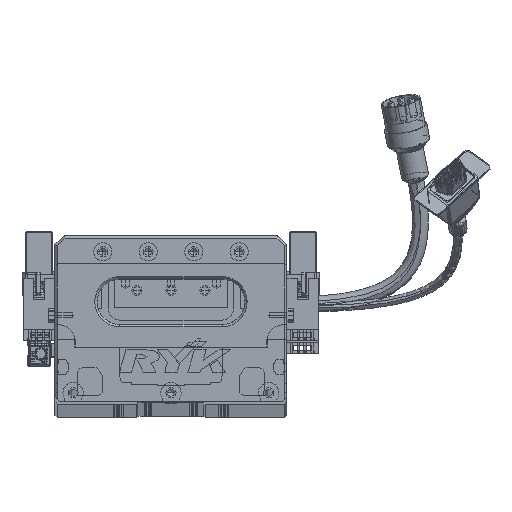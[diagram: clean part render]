
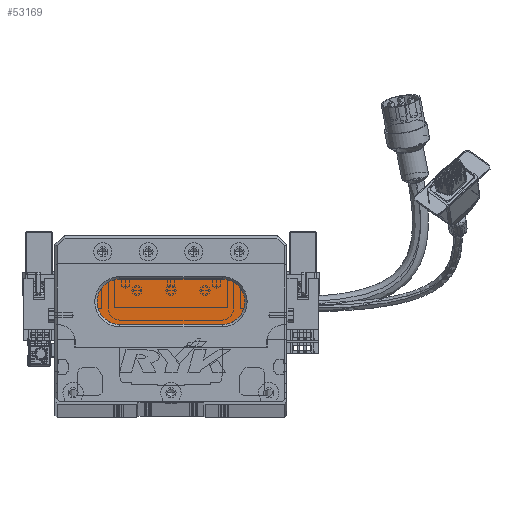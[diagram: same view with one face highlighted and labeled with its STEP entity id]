
A CAD part, top view. The second image highlights one B-rep face of the part: STEP entity #53169.
In plain terms, the highlighted planar face has unit normal (0, 0, 1) as drawn and (0, 0, -1) by its records, which use the part's own axes.
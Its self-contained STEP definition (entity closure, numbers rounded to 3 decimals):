
#3872 = DIRECTION ( 'NONE',  ( -1., 0., 0. ) ) ;
#8210 = CARTESIAN_POINT ( 'NONE',  ( 73.5, 34., 13. ) ) ;
#8734 = CARTESIAN_POINT ( 'NONE',  ( 73.5, 54., 13. ) ) ;
#12034 = CIRCLE ( 'NONE', #40817, 10. ) ;
#16904 = CIRCLE ( 'NONE', #22020, 10. ) ;
#17859 = DIRECTION ( 'NONE',  ( -1., 0., 0. ) ) ;
#19954 = VECTOR ( 'NONE', #86597, 1000. ) ;
#20382 = CARTESIAN_POINT ( 'NONE',  ( 28.5, 34., 13. ) ) ;
#21571 = CARTESIAN_POINT ( 'NONE',  ( 73.5, 54., 13. ) ) ;
#22020 = AXIS2_PLACEMENT_3D ( 'NONE', #46429, #40352, #17859 ) ;
#24805 = VERTEX_POINT ( 'NONE', #49963 ) ;
#28450 = EDGE_CURVE ( 'NONE', #76931, #47013, #12034, .T. ) ;
#31457 = FACE_OUTER_BOUND ( 'NONE', #54058, .T. ) ;
#36217 = CARTESIAN_POINT ( 'NONE',  ( 73.5, 44., 13. ) ) ;
#36836 = DIRECTION ( 'NONE',  ( 0., 0., -1. ) ) ;
#38061 = DIRECTION ( 'NONE',  ( -1., 0., 0. ) ) ;
#39636 = EDGE_CURVE ( 'NONE', #47013, #74011, #46811, .T. ) ;
#40352 = DIRECTION ( 'NONE',  ( 0., 0., -1. ) ) ;
#40817 = AXIS2_PLACEMENT_3D ( 'NONE', #67149, #73556, #38061 ) ;
#42160 = VERTEX_POINT ( 'NONE', #60572 ) ;
#42881 = ORIENTED_EDGE ( 'NONE', *, *, #58640, .T. ) ;
#46429 = CARTESIAN_POINT ( 'NONE',  ( 28.5, 44., 13. ) ) ;
#46774 = ORIENTED_EDGE ( 'NONE', *, *, #28450, .T. ) ;
#46811 = LINE ( 'NONE', #8210, #91415 ) ;
#47013 = VERTEX_POINT ( 'NONE', #94069 ) ;
#49963 = CARTESIAN_POINT ( 'NONE',  ( 18.5, 44., 13. ) ) ;
#51958 = AXIS2_PLACEMENT_3D ( 'NONE', #84350, #91972, #3872 ) ;
#53169 = ADVANCED_FACE ( 'NONE', ( #31457 ), #63695, .T. ) ;
#54058 = EDGE_LOOP ( 'NONE', ( #46774, #86217, #42881, #79621, #76504 ) ) ;
#58640 = EDGE_CURVE ( 'NONE', #74011, #24805, #62256, .T. ) ;
#59170 = DIRECTION ( 'NONE',  ( -1., 0., 0. ) ) ;
#60572 = CARTESIAN_POINT ( 'NONE',  ( 28.5, 54., 13. ) ) ;
#62256 = CIRCLE ( 'NONE', #51958, 10. ) ;
#63695 = PLANE ( 'NONE',  #83524 ) ;
#67149 = CARTESIAN_POINT ( 'NONE',  ( 73.5, 44., 13. ) ) ;
#73556 = DIRECTION ( 'NONE',  ( 0., 0., -1. ) ) ;
#74011 = VERTEX_POINT ( 'NONE', #20382 ) ;
#76504 = ORIENTED_EDGE ( 'NONE', *, *, #91984, .T. ) ;
#76931 = VERTEX_POINT ( 'NONE', #8734 ) ;
#78437 = DIRECTION ( 'NONE',  ( -1., 0., 0. ) ) ;
#78448 = LINE ( 'NONE', #21571, #19954 ) ;
#79621 = ORIENTED_EDGE ( 'NONE', *, *, #82667, .T. ) ;
#82667 = EDGE_CURVE ( 'NONE', #24805, #42160, #16904, .T. ) ;
#83524 = AXIS2_PLACEMENT_3D ( 'NONE', #36217, #36836, #78437 ) ;
#84350 = CARTESIAN_POINT ( 'NONE',  ( 28.5, 44., 13. ) ) ;
#86217 = ORIENTED_EDGE ( 'NONE', *, *, #39636, .T. ) ;
#86597 = DIRECTION ( 'NONE',  ( 1., 0., 0. ) ) ;
#91415 = VECTOR ( 'NONE', #59170, 1000. ) ;
#91972 = DIRECTION ( 'NONE',  ( 0., 0., -1. ) ) ;
#91984 = EDGE_CURVE ( 'NONE', #42160, #76931, #78448, .T. ) ;
#94069 = CARTESIAN_POINT ( 'NONE',  ( 73.5, 34., 13. ) ) ;
